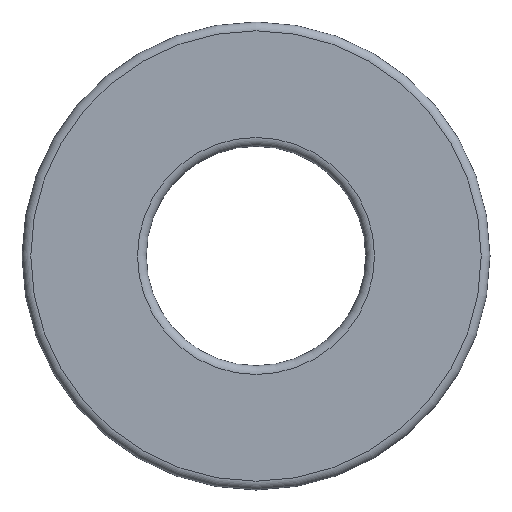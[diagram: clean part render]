
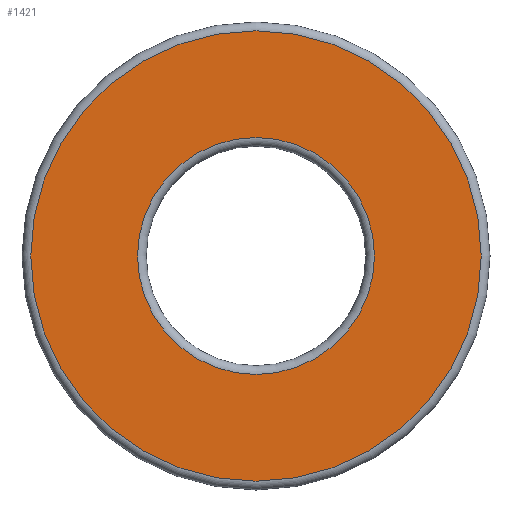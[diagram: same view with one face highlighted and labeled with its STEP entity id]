
A CAD part, front view. The second image highlights one B-rep face of the part: STEP entity #1421.
In plain terms, the highlighted planar face has unit normal (0, -1, 0).
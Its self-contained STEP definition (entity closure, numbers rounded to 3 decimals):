
#116=PLANE('',#1543);
#193=FACE_BOUND('',#382,.T.);
#267=FACE_OUTER_BOUND('',#381,.T.);
#381=EDGE_LOOP('',(#1054));
#382=EDGE_LOOP('',(#1055));
#556=CIRCLE('',#1542,15.4);
#557=CIRCLE('',#1544,8.1);
#741=VERTEX_POINT('',#2486);
#742=VERTEX_POINT('',#2489);
#863=EDGE_CURVE('',#741,#741,#556,.T.);
#864=EDGE_CURVE('',#742,#742,#557,.T.);
#1054=ORIENTED_EDGE('',*,*,#863,.F.);
#1055=ORIENTED_EDGE('',*,*,#864,.F.);
#1421=ADVANCED_FACE('',(#267,#193),#116,.T.);
#1542=AXIS2_PLACEMENT_3D('',#2487,#1870,#1871);
#1543=AXIS2_PLACEMENT_3D('',#2488,#1872,#1873);
#1544=AXIS2_PLACEMENT_3D('',#2490,#1874,#1875);
#1870=DIRECTION('center_axis',(0.,1.,0.));
#1871=DIRECTION('ref_axis',(-1.,0.,0.));
#1872=DIRECTION('center_axis',(0.,-1.,0.));
#1873=DIRECTION('ref_axis',(0.,0.,-1.));
#1874=DIRECTION('center_axis',(0.,-1.,0.));
#1875=DIRECTION('ref_axis',(-1.,0.,0.));
#2486=CARTESIAN_POINT('',(15.4,-6.,0.));
#2487=CARTESIAN_POINT('Origin',(0.,-6.,0.));
#2488=CARTESIAN_POINT('Origin',(7.5,-6.,0.));
#2489=CARTESIAN_POINT('',(8.1,-6.,0.));
#2490=CARTESIAN_POINT('Origin',(0.,-6.,0.));
